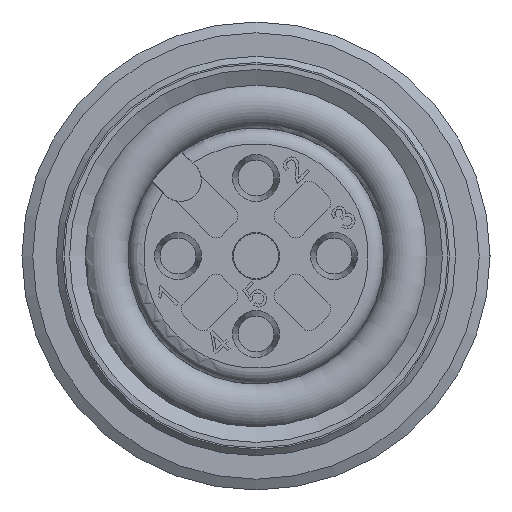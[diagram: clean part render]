
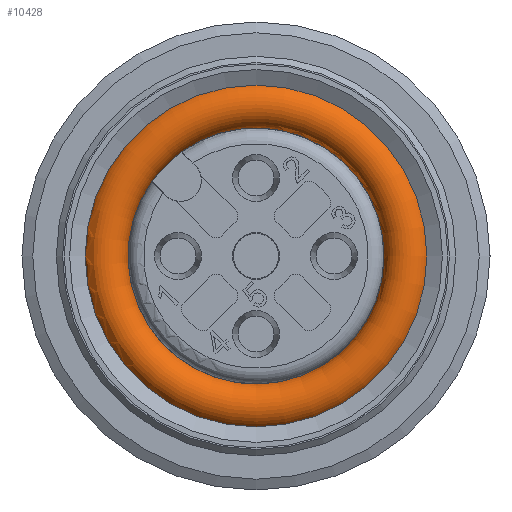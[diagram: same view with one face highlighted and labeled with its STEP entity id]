
A CAD part, left-side view. The second image highlights one B-rep face of the part: STEP entity #10428.
In plain terms, the highlighted toroidal (fillet/blend) face has major radius 4.845 mm and minor radius 0.75 mm.
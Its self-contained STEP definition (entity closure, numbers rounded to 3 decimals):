
#222=TOROIDAL_SURFACE('',#11456,4.845,0.75);
#1384=FACE_OUTER_BOUND('',#2069,.T.);
#2069=EDGE_LOOP('',(#9085,#9086,#9087,#9088,#9089,#9090,#9091,#9092,#9093,
#9094,#9095,#9096,#9097));
#3855=CIRCLE('',#11187,5.475);
#3856=CIRCLE('',#11188,5.475);
#4013=CIRCLE('',#11457,0.75);
#4014=CIRCLE('',#11458,4.1);
#4015=CIRCLE('',#11459,0.74);
#4016=CIRCLE('',#11460,4.1);
#4017=CIRCLE('',#11461,0.75);
#4018=CIRCLE('',#11462,4.723);
#4019=CIRCLE('',#11463,4.1);
#4020=CIRCLE('',#11464,0.74);
#4021=CIRCLE('',#11465,4.1);
#4689=VERTEX_POINT('',#21898);
#4690=VERTEX_POINT('',#21899);
#4878=VERTEX_POINT('',#26829);
#4879=VERTEX_POINT('',#26831);
#4880=VERTEX_POINT('',#26833);
#4881=VERTEX_POINT('',#26835);
#4882=VERTEX_POINT('',#26837);
#4883=VERTEX_POINT('',#26840);
#4884=VERTEX_POINT('',#26842);
#6009=EDGE_CURVE('',#4689,#4690,#3855,.T.);
#6010=EDGE_CURVE('',#4690,#4689,#3856,.T.);
#6319=EDGE_CURVE('',#4689,#4878,#4013,.T.);
#6320=EDGE_CURVE('',#4879,#4878,#4014,.T.);
#6321=EDGE_CURVE('',#4879,#4880,#4015,.T.);
#6322=EDGE_CURVE('',#4881,#4880,#4016,.T.);
#6323=EDGE_CURVE('',#4881,#4882,#4017,.T.);
#6324=EDGE_CURVE('',#4882,#4882,#4018,.T.);
#6325=EDGE_CURVE('',#4883,#4881,#4019,.T.);
#6326=EDGE_CURVE('',#4883,#4884,#4020,.T.);
#6327=EDGE_CURVE('',#4878,#4884,#4021,.T.);
#9085=ORIENTED_EDGE('',*,*,#6009,.T.);
#9086=ORIENTED_EDGE('',*,*,#6010,.T.);
#9087=ORIENTED_EDGE('',*,*,#6319,.T.);
#9088=ORIENTED_EDGE('',*,*,#6320,.F.);
#9089=ORIENTED_EDGE('',*,*,#6321,.T.);
#9090=ORIENTED_EDGE('',*,*,#6322,.F.);
#9091=ORIENTED_EDGE('',*,*,#6323,.T.);
#9092=ORIENTED_EDGE('',*,*,#6324,.F.);
#9093=ORIENTED_EDGE('',*,*,#6323,.F.);
#9094=ORIENTED_EDGE('',*,*,#6325,.F.);
#9095=ORIENTED_EDGE('',*,*,#6326,.T.);
#9096=ORIENTED_EDGE('',*,*,#6327,.F.);
#9097=ORIENTED_EDGE('',*,*,#6319,.F.);
#10428=ADVANCED_FACE('',(#1384),#222,.T.);
#11187=AXIS2_PLACEMENT_3D('',#21900,#13259,#13260);
#11188=AXIS2_PLACEMENT_3D('',#21901,#13261,#13262);
#11456=AXIS2_PLACEMENT_3D('',#26828,#13881,#13882);
#11457=AXIS2_PLACEMENT_3D('',#26830,#13883,#13884);
#11458=AXIS2_PLACEMENT_3D('',#26832,#13885,#13886);
#11459=AXIS2_PLACEMENT_3D('',#26834,#13887,#13888);
#11460=AXIS2_PLACEMENT_3D('',#26836,#13889,#13890);
#11461=AXIS2_PLACEMENT_3D('',#26838,#13891,#13892);
#11462=AXIS2_PLACEMENT_3D('',#26839,#13893,#13894);
#11463=AXIS2_PLACEMENT_3D('',#26841,#13895,#13896);
#11464=AXIS2_PLACEMENT_3D('',#26843,#13897,#13898);
#11465=AXIS2_PLACEMENT_3D('',#26844,#13899,#13900);
#13259=DIRECTION('center_axis',(-1.,0.,0.));
#13260=DIRECTION('ref_axis',(0.,0.,-1.));
#13261=DIRECTION('center_axis',(-1.,0.,0.));
#13262=DIRECTION('ref_axis',(0.,0.,-1.));
#13881=DIRECTION('center_axis',(1.,0.,0.));
#13882=DIRECTION('ref_axis',(0.,0.,1.));
#13883=DIRECTION('center_axis',(0.,1.,0.));
#13884=DIRECTION('ref_axis',(0.,0.,-1.));
#13885=DIRECTION('center_axis',(-1.,0.,0.));
#13886=DIRECTION('ref_axis',(0.,0.,-1.));
#13887=DIRECTION('center_axis',(0.,-0.707,
0.707));
#13888=DIRECTION('ref_axis',(0.117,-0.702,-0.702));
#13889=DIRECTION('center_axis',(1.,0.,0.));
#13890=DIRECTION('ref_axis',(0.,0.,1.));
#13891=DIRECTION('center_axis',(0.,1.,0.));
#13892=DIRECTION('ref_axis',(0.,0.,-1.));
#13893=DIRECTION('center_axis',(-1.,0.,0.));
#13894=DIRECTION('ref_axis',(0.,0.,-1.));
#13895=DIRECTION('center_axis',(1.,0.,0.));
#13896=DIRECTION('ref_axis',(0.,0.,1.));
#13897=DIRECTION('center_axis',(0.,0.707,
-0.707));
#13898=DIRECTION('ref_axis',(-0.117,-0.702,-0.702));
#13899=DIRECTION('center_axis',(-1.,0.,0.));
#13900=DIRECTION('ref_axis',(0.,0.,-1.));
#21898=CARTESIAN_POINT('',(8.094,0.,-5.475));
#21899=CARTESIAN_POINT('',(8.094,5.475,0.));
#21900=CARTESIAN_POINT('Origin',(8.094,0.,0.));
#21901=CARTESIAN_POINT('Origin',(8.094,0.,0.));
#26828=CARTESIAN_POINT('Origin',(8.501,0.,0.));
#26829=CARTESIAN_POINT('',(8.415,0.,-4.1));
#26830=CARTESIAN_POINT('Origin',(8.501,0.,-4.845));
#26831=CARTESIAN_POINT('',(8.415,3.337,2.382));
#26832=CARTESIAN_POINT('Origin',(8.415,0.,0.));
#26833=CARTESIAN_POINT('',(8.587,3.337,2.382));
#26834=CARTESIAN_POINT('Origin',(8.501,3.856,2.902));
#26835=CARTESIAN_POINT('',(8.587,0.,-4.1));
#26836=CARTESIAN_POINT('Origin',(8.587,0.,0.));
#26837=CARTESIAN_POINT('',(9.241,0.,-4.723));
#26838=CARTESIAN_POINT('Origin',(8.501,0.,-4.845));
#26839=CARTESIAN_POINT('Origin',(9.241,0.,0.));
#26840=CARTESIAN_POINT('',(8.587,2.382,3.337));
#26841=CARTESIAN_POINT('Origin',(8.587,0.,0.));
#26842=CARTESIAN_POINT('',(8.415,2.382,3.337));
#26843=CARTESIAN_POINT('Origin',(8.501,2.902,3.856));
#26844=CARTESIAN_POINT('Origin',(8.415,0.,0.));
